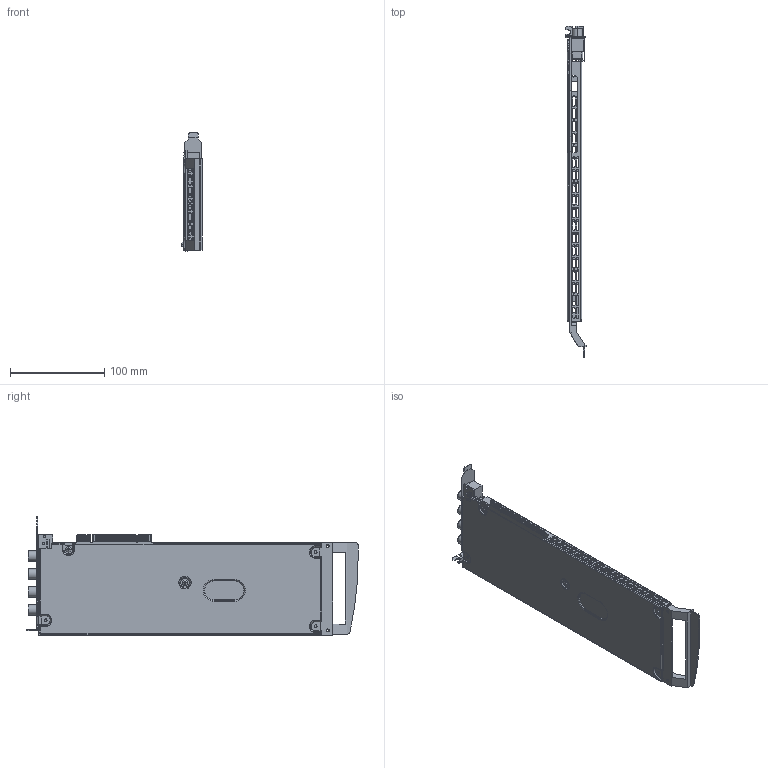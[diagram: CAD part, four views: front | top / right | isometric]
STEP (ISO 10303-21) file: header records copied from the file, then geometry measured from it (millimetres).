
FILE_DESCRIPTION((''),'2;1');
FILE_NAME('CU_PCI-4070_W_RETAINER','2009-12-14T',('jjorden'),(''),'PRO/ENGINEER BY PARAMETRIC TECHNOLOGY CORPORATION, 2006080','PRO/ENGINEER BY PARAMETRIC TECHNOLOGY CORPORATION, 2006080','');
FILE_SCHEMA(('CONFIG_CONTROL_DESIGN'));
Products named in the file (1): CU_PCI-4070_W_RETAINER
Bounding box: 22.07 x 352.25 x 125.79 mm (x, y, z)
Volume: 121834.7 mm3; surface area: 214656.1 mm2
Topology: 21 solids, 21 shells, 2338 faces, 6085 edges, 3907 vertices
Faces by surface type: plane 1528, cylinder 533, bspline 78, torus 73, extrusion 72, cone 34, sphere 20
Entity records: 75063 total; most frequent: CARTESIAN_POINT 17170, ORIENTED_EDGE 12090, DIRECTION 11409, EDGE_CURVE 6045, VECTOR 4539, LINE 4467, VERTEX_POINT 3945, AXIS2_PLACEMENT_3D 3435
